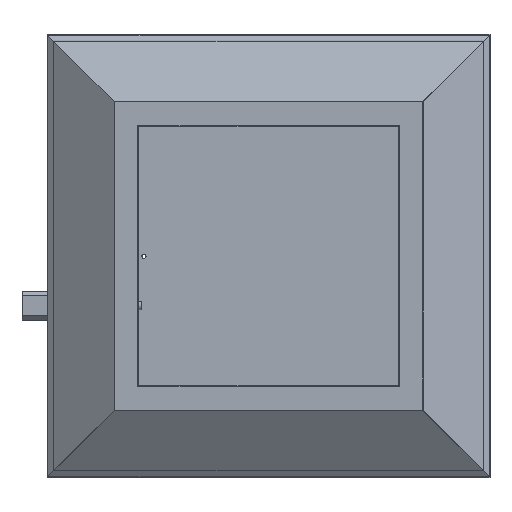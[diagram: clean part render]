
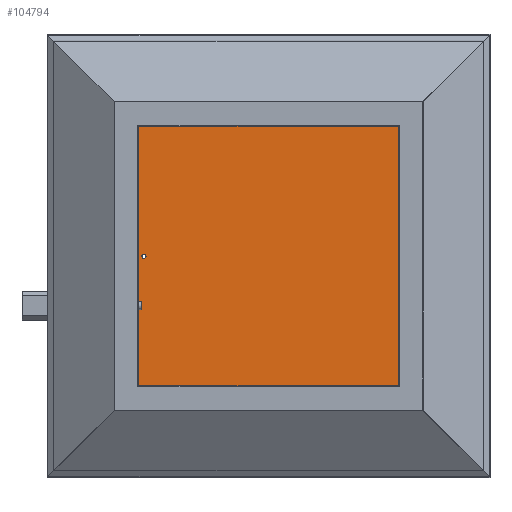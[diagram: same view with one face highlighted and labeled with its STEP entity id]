
A CAD part, top view. The second image highlights one B-rep face of the part: STEP entity #104794.
In plain terms, the highlighted planar face has unit normal (0, 0, 1).
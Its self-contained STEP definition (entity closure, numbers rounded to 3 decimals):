
#37=CIRCLE('',#109585,5.);
#684=FACE_BOUND('',#12552,.T.);
#7135=FACE_OUTER_BOUND('',#12551,.T.);
#12551=EDGE_LOOP('',(#88192,#88193,#88194,#88195,#88196,#88197,#88198,#88199));
#12552=EDGE_LOOP('',(#88200));
#21194=LINE('',#147281,#35473);
#28493=LINE('',#161974,#42772);
#28494=LINE('',#161976,#42773);
#28495=LINE('',#161978,#42774);
#28496=LINE('',#161980,#42775);
#28497=LINE('',#161982,#42776);
#28498=LINE('',#161984,#42777);
#28499=LINE('',#161985,#42778);
#35473=VECTOR('',#121110,10.);
#42772=VECTOR('',#133329,10.);
#42773=VECTOR('',#133330,10.);
#42774=VECTOR('',#133331,10.);
#42775=VECTOR('',#133332,10.);
#42776=VECTOR('',#133333,10.);
#42777=VECTOR('',#133334,10.);
#42778=VECTOR('',#133335,10.);
#47460=VERTEX_POINT('',#147278);
#47461=VERTEX_POINT('',#147280);
#52331=VERTEX_POINT('',#161948);
#52341=VERTEX_POINT('',#161973);
#52342=VERTEX_POINT('',#161975);
#52343=VERTEX_POINT('',#161977);
#52344=VERTEX_POINT('',#161979);
#52345=VERTEX_POINT('',#161981);
#52346=VERTEX_POINT('',#161983);
#59274=EDGE_CURVE('',#47460,#47461,#21194,.F.);
#66583=EDGE_CURVE('',#52331,#52331,#37,.T.);
#66593=EDGE_CURVE('',#52341,#47461,#28493,.F.);
#66594=EDGE_CURVE('',#52342,#47460,#28494,.F.);
#66595=EDGE_CURVE('',#52343,#52342,#28495,.F.);
#66596=EDGE_CURVE('',#52343,#52344,#28496,.F.);
#66597=EDGE_CURVE('',#52345,#52344,#28497,.F.);
#66598=EDGE_CURVE('',#52346,#52345,#28498,.T.);
#66599=EDGE_CURVE('',#52341,#52346,#28499,.F.);
#88192=ORIENTED_EDGE('',*,*,#66593,.T.);
#88193=ORIENTED_EDGE('',*,*,#59274,.F.);
#88194=ORIENTED_EDGE('',*,*,#66594,.F.);
#88195=ORIENTED_EDGE('',*,*,#66595,.F.);
#88196=ORIENTED_EDGE('',*,*,#66596,.T.);
#88197=ORIENTED_EDGE('',*,*,#66597,.F.);
#88198=ORIENTED_EDGE('',*,*,#66598,.F.);
#88199=ORIENTED_EDGE('',*,*,#66599,.F.);
#88200=ORIENTED_EDGE('',*,*,#66583,.T.);
#100015=PLANE('',#109599);
#104794=ADVANCED_FACE('',(#7135,#684),#100015,.T.);
#109585=AXIS2_PLACEMENT_3D('',#161949,#133299,#133300);
#109599=AXIS2_PLACEMENT_3D('',#161972,#133327,#133328);
#121110=DIRECTION('',(1.,0.,0.));
#133299=DIRECTION('center_axis',(0.,0.,-1.));
#133300=DIRECTION('ref_axis',(1.,0.,0.));
#133327=DIRECTION('center_axis',(0.,0.,1.));
#133328=DIRECTION('ref_axis',(1.,0.,0.));
#133329=DIRECTION('',(-0.707,0.707,0.));
#133330=DIRECTION('',(0.707,0.707,0.));
#133331=DIRECTION('',(0.,1.,0.));
#133332=DIRECTION('',(0.707,-0.707,0.));
#133333=DIRECTION('',(-1.,0.,0.));
#133334=DIRECTION('',(0.707,0.707,0.));
#133335=DIRECTION('',(0.,-1.,0.));
#147278=CARTESIAN_POINT('',(258.823,-370.747,38.));
#147280=CARTESIAN_POINT('',(-258.823,-370.747,38.));
#147281=CARTESIAN_POINT('',(268.75,-370.747,38.));
#161948=CARTESIAN_POINT('',(-307.5,0.,38.));
#161949=CARTESIAN_POINT('Origin',(-302.5,0.,38.));
#161972=CARTESIAN_POINT('Origin',(0.,0.,38.));
#161973=CARTESIAN_POINT('',(-370.747,-258.823,38.));
#161974=CARTESIAN_POINT('',(-314.785,-314.785,38.));
#161975=CARTESIAN_POINT('',(370.747,-258.823,38.));
#161976=CARTESIAN_POINT('',(314.785,-314.785,38.));
#161977=CARTESIAN_POINT('',(370.747,258.823,38.));
#161978=CARTESIAN_POINT('',(370.747,268.75,38.));
#161979=CARTESIAN_POINT('',(258.823,370.747,38.));
#161980=CARTESIAN_POINT('',(314.785,314.785,38.));
#161981=CARTESIAN_POINT('',(-258.823,370.747,38.));
#161982=CARTESIAN_POINT('',(-268.75,370.747,38.));
#161983=CARTESIAN_POINT('',(-370.747,258.823,38.));
#161984=CARTESIAN_POINT('',(-314.785,314.785,38.));
#161985=CARTESIAN_POINT('',(-370.747,-268.75,38.));
